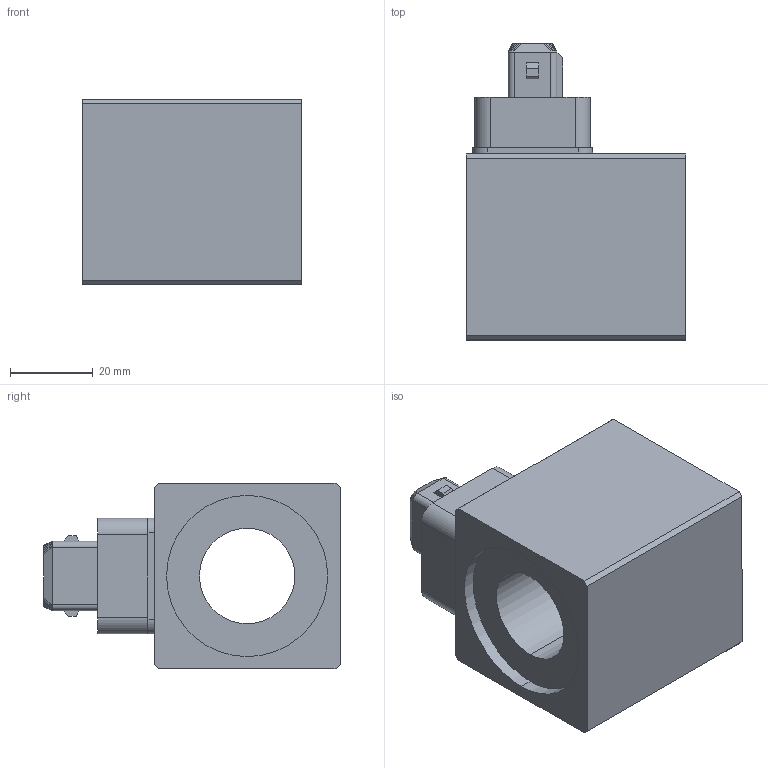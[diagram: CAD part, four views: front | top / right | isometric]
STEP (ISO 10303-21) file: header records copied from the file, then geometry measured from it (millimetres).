
FILE_DESCRIPTION (( 'STEP AP214' ), '1' );
FILE_NAME ('MJS45_23x50.STEP', '2015-07-16T13:45:21', ( '' ), ( '' ), 'SwSTEP 2.0', 'SolidWorks 2014', '' );
FILE_SCHEMA (( 'AUTOMOTIVE_DESIGN' ));
Length unit declared in the file: millimetre
Products named in the file (2): MJS45_23x50
Bounding box: 53 x 71.7 x 45 mm (x, y, z)
Volume: 92544.4 mm3; surface area: 22544.3 mm2
Topology: 2 solids, 5 shells, 330 faces, 869 edges, 569 vertices
Faces by surface type: plane 246, cylinder 78, bspline 4, cone 2
Entity records: 13825 total; most frequent: CARTESIAN_POINT 2043, ORIENTED_EDGE 1738, DIRECTION 1656, EDGE_CURVE 869, VECTOR 640, LINE 640, VERTEX_POINT 569, AXIS2_PLACEMENT_3D 508
